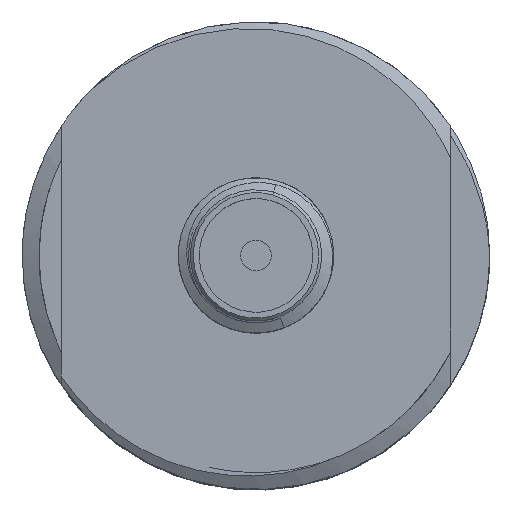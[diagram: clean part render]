
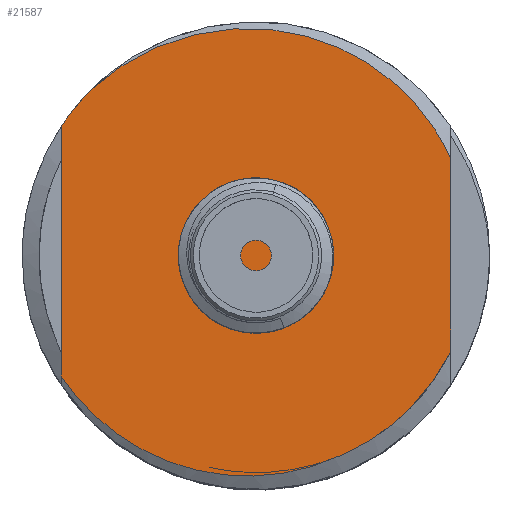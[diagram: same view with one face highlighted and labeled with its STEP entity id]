
A CAD part, top view. The second image highlights one B-rep face of the part: STEP entity #21587.
In plain terms, the highlighted planar face has unit normal (0, 0, 1).
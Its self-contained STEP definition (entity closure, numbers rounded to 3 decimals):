
#4443 = CARTESIAN_POINT ( 'NONE',  ( -7.937, 5.265, 19.05 ) ) ;
#5952 = CARTESIAN_POINT ( 'NONE',  ( -6.735, 6.735, 19.05 ) ) ;
#5953 = DIRECTION ( 'NONE',  ( 1., 0., 0. ) ) ;
#5954 = DIRECTION ( 'NONE',  ( 0., 0., 1. ) ) ;
#5955 = CARTESIAN_POINT ( 'NONE',  ( 0., 0., 19.05 ) ) ;
#5956 = AXIS2_PLACEMENT_3D ( 'NONE', #5955, #5954, #5953 ) ;
#5960 = CIRCLE ( 'NONE', #5956, 9.525 ) ;
#7779 = CARTESIAN_POINT ( 'NONE',  ( 4.068, 8.134, 19.05 ) ) ;
#7780 = CARTESIAN_POINT ( 'NONE',  ( 3.743, 8.304, 19.05 ) ) ;
#7781 = CARTESIAN_POINT ( 'NONE',  ( 2.744, 8.754, 19.05 ) ) ;
#7782 = CARTESIAN_POINT ( 'NONE',  ( 2.055, 8.969, 19.05 ) ) ;
#7783 = CARTESIAN_POINT ( 'NONE',  ( 0.984, 9.168, 19.05 ) ) ;
#7784 = CARTESIAN_POINT ( 'NONE',  ( 0.619, 9.214, 19.05 ) ) ;
#7785 = CARTESIAN_POINT ( 'NONE',  ( -0.108, 9.261, 19.05 ) ) ;
#7786 = CARTESIAN_POINT ( 'NONE',  ( -0.47, 9.262, 19.05 ) ) ;
#7787 = CARTESIAN_POINT ( 'NONE',  ( -1.192, 9.224, 19.05 ) ) ;
#7788 = CARTESIAN_POINT ( 'NONE',  ( -1.552, 9.184, 19.05 ) ) ;
#7789 = CARTESIAN_POINT ( 'NONE',  ( -2.268, 9.062, 19.05 ) ) ;
#7790 = CARTESIAN_POINT ( 'NONE',  ( -2.627, 8.979, 19.05 ) ) ;
#7791 = CARTESIAN_POINT ( 'NONE',  ( -3.674, 8.672, 19.05 ) ) ;
#7792 = CARTESIAN_POINT ( 'NONE',  ( -4.34, 8.39, 19.05 ) ) ;
#7795 = CARTESIAN_POINT ( 'NONE',  ( -5.288, 7.851, 19.05 ) ) ;
#7796 = CARTESIAN_POINT ( 'NONE',  ( -5.597, 7.651, 19.05 ) ) ;
#7797 = CARTESIAN_POINT ( 'NONE',  ( -6.186, 7.218, 19.05 ) ) ;
#7798 = CARTESIAN_POINT ( 'NONE',  ( -6.467, 6.985, 19.05 ) ) ;
#7799 = CARTESIAN_POINT ( 'NONE',  ( -6.735, 6.735, 19.05 ) ) ;
#7800 = CARTESIAN_POINT ( 'NONE',  ( 7.938, 3.941, 19.05 ) ) ;
#7801 = B_SPLINE_CURVE_WITH_KNOTS ( 'NONE', 3,
 ( #7799, #7798, #7797, #7796, #7795, #7792, #7791, #7790, #7789, #7788, #7787, #7786, #7785, #7784, #7783, #7782, #7781, #7780, #7779, #7830, #7829, #7828, #7827, #7826, #7825, #7824, #7823, #7822 ),
 .UNSPECIFIED., .F., .F.,
 ( 4, 2, 2, 2, 2, 2, 2, 2, 2, 2, 2, 2, 2, 4 ),
 ( 0., 0.001, 0.002, 0.004, 0.005, 0.007, 0.008, 0.009, 0.011, 0.012, 0.013, 0.014, 0.015, 0.018 ),
 .UNSPECIFIED. ) ;
#7822 = CARTESIAN_POINT ( 'NONE',  ( 7.938, 3.941, 19.05 ) ) ;
#7823 = CARTESIAN_POINT ( 'NONE',  ( 7.638, 4.611, 19.05 ) ) ;
#7824 = CARTESIAN_POINT ( 'NONE',  ( 7.263, 5.229, 19.05 ) ) ;
#7825 = CARTESIAN_POINT ( 'NONE',  ( 6.593, 6.081, 19.05 ) ) ;
#7826 = CARTESIAN_POINT ( 'NONE',  ( 6.35, 6.353, 19.05 ) ) ;
#7827 = CARTESIAN_POINT ( 'NONE',  ( 5.83, 6.869, 19.05 ) ) ;
#7828 = CARTESIAN_POINT ( 'NONE',  ( 5.557, 7.109, 19.05 ) ) ;
#7829 = CARTESIAN_POINT ( 'NONE',  ( 4.987, 7.554, 19.05 ) ) ;
#7830 = CARTESIAN_POINT ( 'NONE',  ( 4.689, 7.759, 19.05 ) ) ;
#13633 = CARTESIAN_POINT ( 'NONE',  ( -7.937, -4.904, 19.05 ) ) ;
#13643 = CARTESIAN_POINT ( 'NONE',  ( 3.382, -8.165, 19.05 ) ) ;
#16784 = CARTESIAN_POINT ( 'NONE',  ( -7.937, -4.904, 19.05 ) ) ;
#16785 = CARTESIAN_POINT ( 'NONE',  ( -7.637, -5.35, 19.05 ) ) ;
#16786 = CARTESIAN_POINT ( 'NONE',  ( -7.302, -5.767, 19.05 ) ) ;
#16787 = CARTESIAN_POINT ( 'NONE',  ( -6.747, -6.349, 19.05 ) ) ;
#16788 = CARTESIAN_POINT ( 'NONE',  ( -6.552, -6.536, 19.05 ) ) ;
#16789 = CARTESIAN_POINT ( 'NONE',  ( -6.15, -6.889, 19.05 ) ) ;
#16790 = CARTESIAN_POINT ( 'NONE',  ( -5.943, -7.056, 19.05 ) ) ;
#16791 = CARTESIAN_POINT ( 'NONE',  ( -5.301, -7.528, 19.05 ) ) ;
#16792 = CARTESIAN_POINT ( 'NONE',  ( -4.847, -7.804, 19.05 ) ) ;
#16793 = CARTESIAN_POINT ( 'NONE',  ( -4.127, -8.159, 19.05 ) ) ;
#16794 = CARTESIAN_POINT ( 'NONE',  ( -3.88, -8.268, 19.05 ) ) ;
#16795 = CARTESIAN_POINT ( 'NONE',  ( -3.382, -8.461, 19.05 ) ) ;
#16796 = CARTESIAN_POINT ( 'NONE',  ( -3.13, -8.546, 19.05 ) ) ;
#16797 = CARTESIAN_POINT ( 'NONE',  ( -2.365, -8.768, 19.05 ) ) ;
#16798 = CARTESIAN_POINT ( 'NONE',  ( -1.843, -8.872, 19.05 ) ) ;
#16799 = CARTESIAN_POINT ( 'NONE',  ( -0.776, -8.987, 19.05 ) ) ;
#16800 = CARTESIAN_POINT ( 'NONE',  ( -0.24, -8.997, 19.05 ) ) ;
#16801 = CARTESIAN_POINT ( 'NONE',  ( 0.819, -8.923, 19.05 ) ) ;
#16802 = CARTESIAN_POINT ( 'NONE',  ( 1.346, -8.838, 19.05 ) ) ;
#16808 = CARTESIAN_POINT ( 'NONE',  ( 2.388, -8.571, 19.05 ) ) ;
#16809 = CARTESIAN_POINT ( 'NONE',  ( 2.893, -8.391, 19.05 ) ) ;
#16810 = CARTESIAN_POINT ( 'NONE',  ( 3.382, -8.165, 19.05 ) ) ;
#16811 = B_SPLINE_CURVE_WITH_KNOTS ( 'NONE', 3,
 ( #16810, #16809, #16808, #16802, #16801, #16800, #16799, #16798, #16797, #16796, #16795, #16794, #16793, #16792, #16791, #16790, #16789, #16788, #16787, #16786, #16785, #16784 ),
 .UNSPECIFIED., .F., .F.,
 ( 4, 2, 2, 2, 2, 2, 2, 2, 2, 2, 4 ),
 ( 0., 0.002, 0.003, 0.005, 0.006, 0.007, 0.008, 0.01, 0.01, 0.011, 0.013 ),
 .UNSPECIFIED. ) ;
#18301 = CARTESIAN_POINT ( 'NONE',  ( 7.938, -3.886, 19.05 ) ) ;
#18317 = CARTESIAN_POINT ( 'NONE',  ( 3.382, -8.165, 19.05 ) ) ;
#18318 = CARTESIAN_POINT ( 'NONE',  ( 3.876, -7.96, 19.05 ) ) ;
#18319 = CARTESIAN_POINT ( 'NONE',  ( 4.35, -7.712, 19.05 ) ) ;
#18320 = CARTESIAN_POINT ( 'NONE',  ( 5.246, -7.132, 19.05 ) ) ;
#18321 = CARTESIAN_POINT ( 'NONE',  ( 5.666, -6.803, 19.05 ) ) ;
#18322 = CARTESIAN_POINT ( 'NONE',  ( 6.821, -5.717, 19.05 ) ) ;
#18323 = CARTESIAN_POINT ( 'NONE',  ( 7.468, -4.845, 19.05 ) ) ;
#18324 = CARTESIAN_POINT ( 'NONE',  ( 7.938, -3.886, 19.05 ) ) ;
#18326 = B_SPLINE_CURVE_WITH_KNOTS ( 'NONE', 3,
 ( #18324, #18323, #18322, #18321, #18320, #18319, #18318, #18317 ),
 .UNSPECIFIED., .F., .F.,
 ( 4, 2, 2, 4 ),
 ( 0., 0.003, 0.005, 0.006 ),
 .UNSPECIFIED. ) ;
#19799 = DIRECTION ( 'NONE',  ( 0., -1., 0. ) ) ;
#19800 = VECTOR ( 'NONE', #19799, 1000. ) ;
#19801 = CARTESIAN_POINT ( 'NONE',  ( 7.938, 10.16, 19.05 ) ) ;
#19802 = LINE ( 'NONE', #19801, #19800 ) ;
#19810 = DIRECTION ( 'NONE',  ( 0., -1., 0. ) ) ;
#19811 = VECTOR ( 'NONE', #19810, 1000. ) ;
#19812 = CARTESIAN_POINT ( 'NONE',  ( -7.937, 10.16, 19.05 ) ) ;
#19813 = LINE ( 'NONE', #19812, #19811 ) ;
#19814 = DIRECTION ( 'NONE',  ( 1., 0., 0. ) ) ;
#19815 = DIRECTION ( 'NONE',  ( 0., 0., 1. ) ) ;
#19816 = CARTESIAN_POINT ( 'NONE',  ( -7.937, 10.16, 19.05 ) ) ;
#19817 = AXIS2_PLACEMENT_3D ( 'NONE', #19816, #19815, #19814 ) ;
#19818 = PLANE ( 'NONE',  #19817 ) ;
#19819 = FACE_OUTER_BOUND ( 'NONE', #21607, .T. ) ;
#20677 = VERTEX_POINT ( 'NONE', #4443 ) ;
#21279 = EDGE_CURVE ( 'NONE', #21280, #20677, #5960, .T. ) ;
#21280 = VERTEX_POINT ( 'NONE', #5952 ) ;
#21373 = EDGE_CURVE ( 'NONE', #21280, #21374, #7801, .T. ) ;
#21374 = VERTEX_POINT ( 'NONE', #7800 ) ;
#21455 = VERTEX_POINT ( 'NONE', #13643 ) ;
#21457 = VERTEX_POINT ( 'NONE', #13633 ) ;
#21514 = EDGE_CURVE ( 'NONE', #21455, #21457, #16811, .T. ) ;
#21559 = VERTEX_POINT ( 'NONE', #18301 ) ;
#21561 = EDGE_CURVE ( 'NONE', #21559, #21455, #18326, .T. ) ;
#21587 = ADVANCED_FACE ( 'NONE', ( #19819 ), #19818, .T. ) ;
#21588 = ORIENTED_EDGE ( 'NONE', *, *, #21279, .T. ) ;
#21589 = ORIENTED_EDGE ( 'NONE', *, *, #21590, .T. ) ;
#21590 = EDGE_CURVE ( 'NONE', #20677, #21457, #19813, .T. ) ;
#21591 = ORIENTED_EDGE ( 'NONE', *, *, #21514, .F. ) ;
#21592 = ORIENTED_EDGE ( 'NONE', *, *, #21561, .F. ) ;
#21593 = ORIENTED_EDGE ( 'NONE', *, *, #21617, .F. ) ;
#21594 = ORIENTED_EDGE ( 'NONE', *, *, #21373, .F. ) ;
#21607 = EDGE_LOOP ( 'NONE', ( #21588, #21589, #21591, #21592, #21593, #21594 ) ) ;
#21617 = EDGE_CURVE ( 'NONE', #21374, #21559, #19802, .T. ) ;
